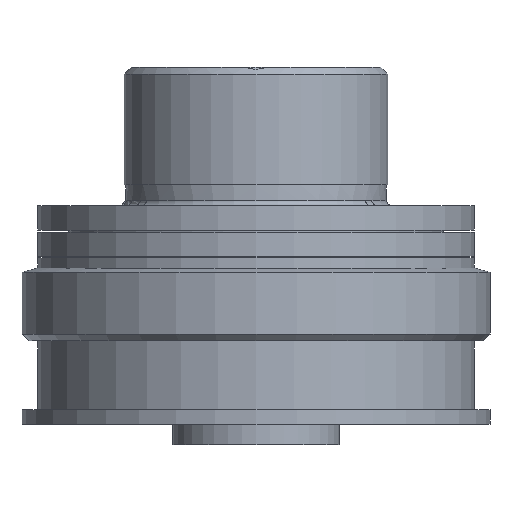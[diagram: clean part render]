
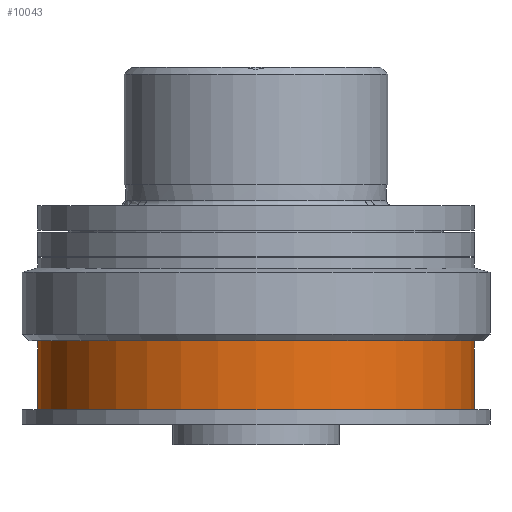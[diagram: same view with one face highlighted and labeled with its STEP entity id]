
A CAD part, front view. The second image highlights one B-rep face of the part: STEP entity #10043.
In plain terms, the highlighted cylindrical face has radius 31.5 mm (diameter 63 mm), a partial arc.
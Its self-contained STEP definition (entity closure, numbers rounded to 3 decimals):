
#27 = EDGE_CURVE ( 'NONE', #3060, #3123, #677, .T. ) ;
#198 = EDGE_CURVE ( 'NONE', #3090, #3123, #912, .T. ) ;
#338 = EDGE_CURVE ( 'NONE', #3060, #3079, #7087, .T. ) ;
#485 = AXIS2_PLACEMENT_3D ( 'NONE', #1096, #1097, #1098 ) ;
#677 = LINE ( 'NONE', #9550, #681 ) ;
#681 = VECTOR ( 'NONE', #1306, 1000. ) ;
#912 = CIRCLE ( 'NONE', #485, 31.5 ) ;
#1096 = CARTESIAN_POINT ( 'NONE',  ( 0., 0., 12. ) ) ;
#1097 = DIRECTION ( 'NONE',  ( 0., 0., -1. ) ) ;
#1098 = DIRECTION ( 'NONE',  ( -1., 0., 0. ) ) ;
#1176 = CARTESIAN_POINT ( 'NONE',  ( 0., 0., 2.1 ) ) ;
#1177 = DIRECTION ( 'NONE',  ( 0., 0., 1. ) ) ;
#1178 = DIRECTION ( 'NONE',  ( 1., 0., 0. ) ) ;
#1306 = DIRECTION ( 'NONE',  ( 0., 0., 1. ) ) ;
#1598 = ORIENTED_EDGE ( 'NONE', *, *, #198, .T. ) ;
#1608 = ORIENTED_EDGE ( 'NONE', *, *, #27, .F. ) ;
#1618 = ORIENTED_EDGE ( 'NONE', *, *, #338, .T. ) ;
#1660 = ORIENTED_EDGE ( 'NONE', *, *, #2096, .T. ) ;
#2096 = EDGE_CURVE ( 'NONE', #3079, #3090, #7514, .T. ) ;
#2620 = EDGE_LOOP ( 'NONE', ( #1608, #1618, #1660, #1598 ) ) ;
#3060 = VERTEX_POINT ( 'NONE', #8612 ) ;
#3079 = VERTEX_POINT ( 'NONE', #8620 ) ;
#3090 = VERTEX_POINT ( 'NONE', #8640 ) ;
#3123 = VERTEX_POINT ( 'NONE', #8649 ) ;
#3509 = AXIS2_PLACEMENT_3D ( 'NONE', #4923, #4924, #4932 ) ;
#4778 = FACE_OUTER_BOUND ( 'NONE', #2620, .T. ) ;
#4786 = CYLINDRICAL_SURFACE ( 'NONE', #3509, 31.5 ) ;
#4923 = CARTESIAN_POINT ( 'NONE',  ( 0., 0., 2.1 ) ) ;
#4924 = DIRECTION ( 'NONE',  ( 0., 0., 1. ) ) ;
#4932 = DIRECTION ( 'NONE',  ( 1., 0., 0. ) ) ;
#6460 = AXIS2_PLACEMENT_3D ( 'NONE', #1176, #1177, #1178 ) ;
#7087 = CIRCLE ( 'NONE', #6460, 31.5 ) ;
#7514 = LINE ( 'NONE', #8285, #7518 ) ;
#7518 = VECTOR ( 'NONE', #8286, 1000. ) ;
#8285 = CARTESIAN_POINT ( 'NONE',  ( 31.5, 0., 2.1 ) ) ;
#8286 = DIRECTION ( 'NONE',  ( 0., 0., 1. ) ) ;
#8612 = CARTESIAN_POINT ( 'NONE',  ( -31.5, 0., 2.1 ) ) ;
#8620 = CARTESIAN_POINT ( 'NONE',  ( 31.5, 0., 2.1 ) ) ;
#8640 = CARTESIAN_POINT ( 'NONE',  ( 31.5, 0., 12. ) ) ;
#8649 = CARTESIAN_POINT ( 'NONE',  ( -31.5, 0., 12. ) ) ;
#9550 = CARTESIAN_POINT ( 'NONE',  ( -31.5, 0., 2.1 ) ) ;
#10043 = ADVANCED_FACE ( 'NONE', ( #4778 ), #4786, .T. ) ;
